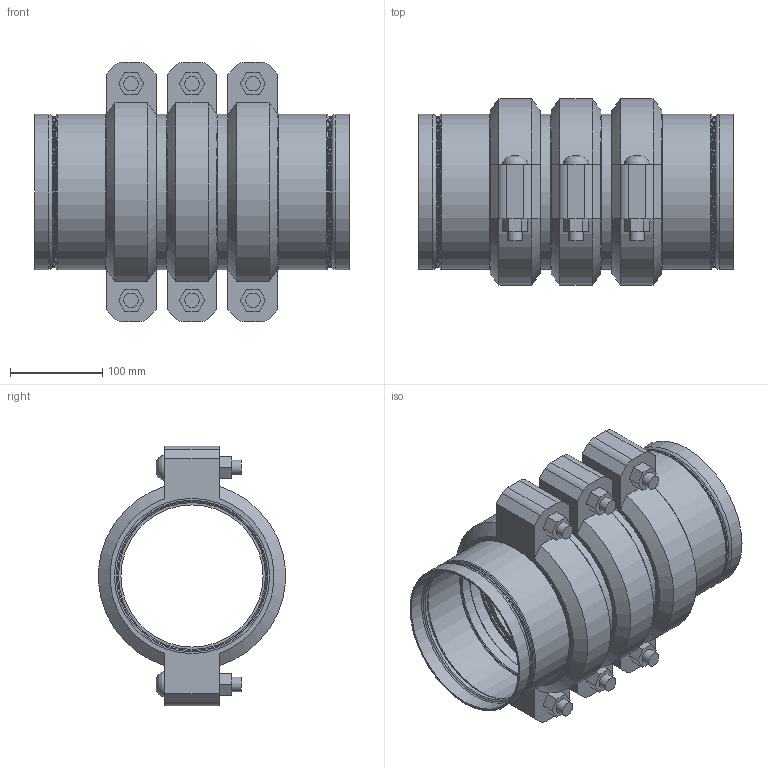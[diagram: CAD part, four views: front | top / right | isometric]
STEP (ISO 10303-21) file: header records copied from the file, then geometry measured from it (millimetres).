
FILE_DESCRIPTION(/* description */ ('VIC STRENGTHIN 100 EXPANSION JOINT 3 COUPLINGS EXPANDED STYLE E155 (ST1)','CAx-IF Rec.Pracs.---Representation and Presentation of Product Manufacturing Information (PMI)---4.0---2014-10-13'),/* implementation_level */ '2;1');
FILE_NAME(/* name */ 'C:\Users\Vjadhav\AppData\Roaming\Autodesk\ApplicationPlugins\Victaulic.Temp\A946\Victaulic_SS-StrengThin 100_Expansion Joint_Expanded_3 Couplings_Style E155 (ST1)_6 (150).stp',/* time_stamp */ '2021-07-23T19:28:23+06:00',/* author */ ('kkamble'),/* organization */ ('Victaulic'),/* preprocessor_version */ 'ST-DEVELOPER v17.2',/* originating_system */ 'Autodesk Inventor 2019',/* authorisation */ '');
FILE_SCHEMA (('AP242_MANAGED_MODEL_BASED_3D_ENGINEERING_MIM_LF { 1 0 10303 442 1 1 4 }'));
Length unit declared in the file: inch
Products named in the file (4): E155-06.0; E494G-06.0; Nipple-06.0; 075-06.0
Assembly tree (7 placements, depth 2):
  E155-06.0
    E494G-06.0  x2
    Nipple-06.0  x2
    075-06.0  x3
Bounding box: 340.87 x 202.46 x 281.18 mm (x, y, z)
Volume: 2879284.8 mm3; surface area: 711108.5 mm2
Topology: 7 solids, 13 shells, 263 faces, 681 edges, 484 vertices
Faces by surface type: plane 132, cylinder 77, torus 32, cone 16, bspline 6
Full cylindrical faces by diameter (mm): 15.875 x12, 17.424 x6, 154.051 x2, 159.258 x2, 159.944 x2, 161.925 x3, 163.271 x2, 163.957 x6, 164.262 x6, 168.275 x18
Entity records: 3718 total; most frequent: DIRECTION 657, CARTESIAN_POINT 653, ORIENTED_EDGE 548, AXIS2_PLACEMENT_3D 279, EDGE_CURVE 274, VERTEX_POINT 197, CIRCLE 167, EDGE_LOOP 129
